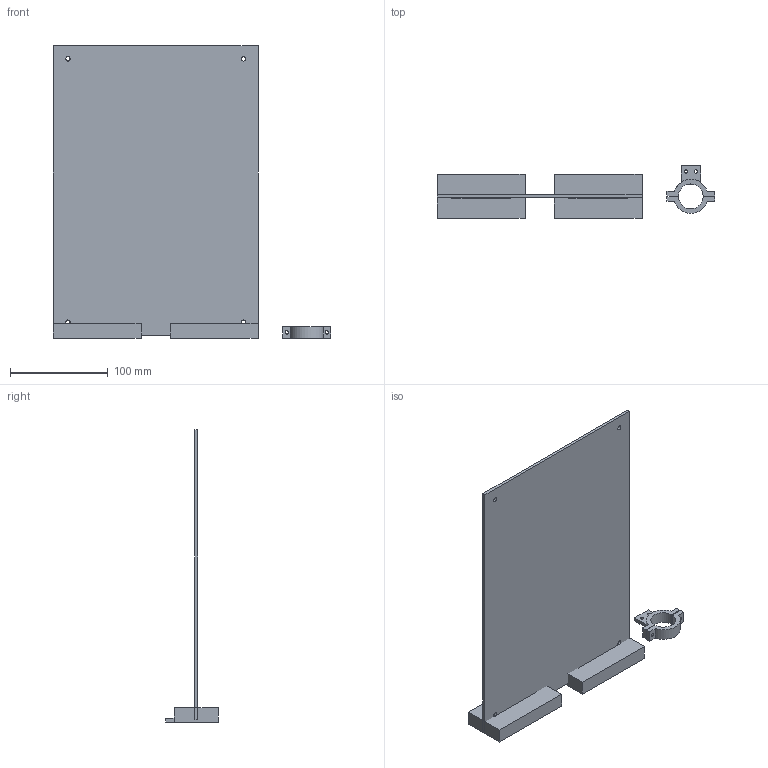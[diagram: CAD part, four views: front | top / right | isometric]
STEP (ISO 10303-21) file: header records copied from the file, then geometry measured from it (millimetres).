
FILE_DESCRIPTION(('Open CASCADE Model'),'2;1');
FILE_NAME('Open CASCADE Shape Model','2026-10-21T16:58:03',('Author'),( 'Open CASCADE'),'Open CASCADE STEP processor 7.9','Open CASCADE 7.9' ,'Unknown');
FILE_SCHEMA(('AUTOMOTIVE_DESIGN { 1 0 10303 214 1 1 1 1 }'));
Length unit declared in the file: millimetre
Products named in the file (6): P10_illustrative; a4_target_backing_0; target_foot_1; target_foot_2; spray_neck_front_3; spray_neck_back_4
Assembly tree (5 placements, depth 2):
  P10_illustrative
    a4_target_backing_0
    target_foot_1
    target_foot_2
    spray_neck_front_3
    spray_neck_back_4
Bounding box: 284.5 x 54 x 300 mm (x, y, z)
Volume: 311395.6 mm3; surface area: 160448.1 mm2
Topology: 5 solids, 5 shells, 62 faces, 150 edges, 100 vertices
Faces by surface type: plane 48, cylinder 14
Full cylindrical faces by diameter (mm): 3.4 x6, 4.5 x4
Entity records: 3969 total; most frequent: CARTESIAN_POINT 696, DIRECTION 603, LINE 390, VECTOR 390, ORIENTED_EDGE 300, PCURVE 300, DEFINITIONAL_REPRESENTATION 300, EDGE_CURVE 150
